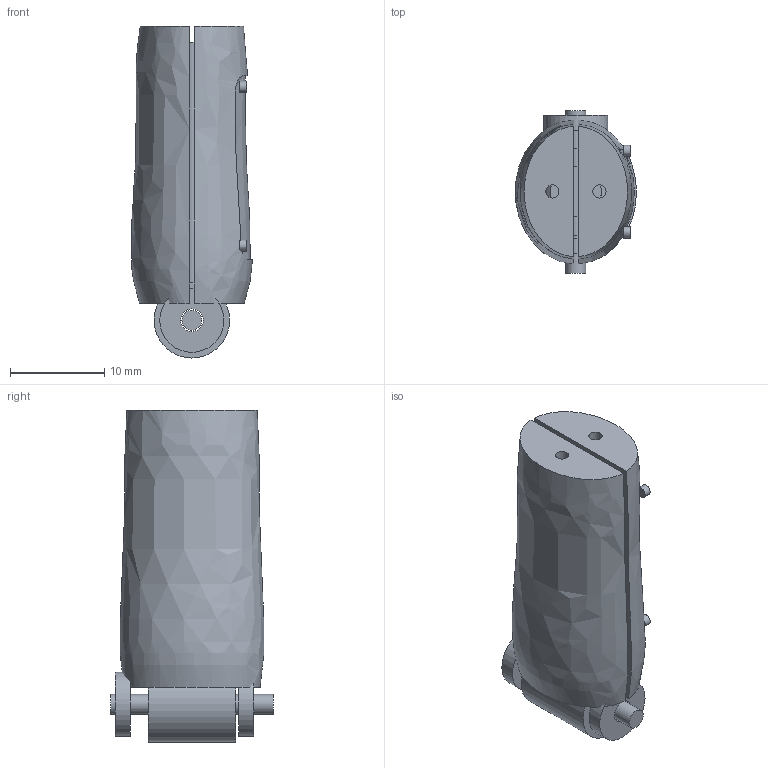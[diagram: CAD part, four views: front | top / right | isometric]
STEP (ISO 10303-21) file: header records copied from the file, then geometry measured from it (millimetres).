
FILE_DESCRIPTION(('FreeCAD Model'),'2;1');
FILE_NAME('Open CASCADE Shape Model','2026-10-05T09:22:59',('Author'),( ''),'Open CASCADE STEP processor 7.8','FreeCAD','Unknown');
FILE_SCHEMA(('AUTOMOTIVE_DESIGN { 1 0 10303 214 1 1 1 1 }'));
Length unit declared in the file: millimetre
Products named in the file (13): Export_pinky_proximal; pinky_proximalDorsalShell; pinky_proximalFlexorShell; pinky_proximalInsetPad; pinky_proximalCore; pinky_proximalHingeBarrel; pinky_proximalCheek-1; pinky_proximalCheek1; pinky_proximalPin; pinky_proximalScrew_-1_0.24; pinky_proximalScrew_-1_0.75; pinky_proximalScrew_1_0.24; pinky_proximalScrew_1_0.75
Assembly tree (12 placements, depth 2):
  Export_pinky_proximal
    pinky_proximalDorsalShell
    pinky_proximalFlexorShell
    pinky_proximalInsetPad
    pinky_proximalCore
    pinky_proximalHingeBarrel
    pinky_proximalCheek-1
    pinky_proximalCheek1
    pinky_proximalPin
    pinky_proximalScrew_-1_0.24
    pinky_proximalScrew_-1_0.75
    pinky_proximalScrew_1_0.24
    pinky_proximalScrew_1_0.75
Bounding box: 12.83 x 17.2 x 35.2 mm (x, y, z)
Volume: 4973.9 mm3; surface area: 4246 mm2
Topology: 12 solids, 12 shells, 83 faces, 150 edges, 90 vertices
Faces by surface type: plane 38, cylinder 34, sphere 8, bspline 3
Full cylindrical faces by diameter (mm): 0.464 x4, 1.16 x4, 1.4 x2, 2.1 x1, 2.4 x3, 5.4 x1, 6.8 x2, 8 x1
Entity records: 3130 total; most frequent: CARTESIAN_POINT 1342, DIRECTION 356, ORIENTED_EDGE 288, AXIS2_PLACEMENT_3D 153, EDGE_CURVE 144, FACE_BOUND 98, EDGE_LOOP 98, VERTEX_POINT 90
